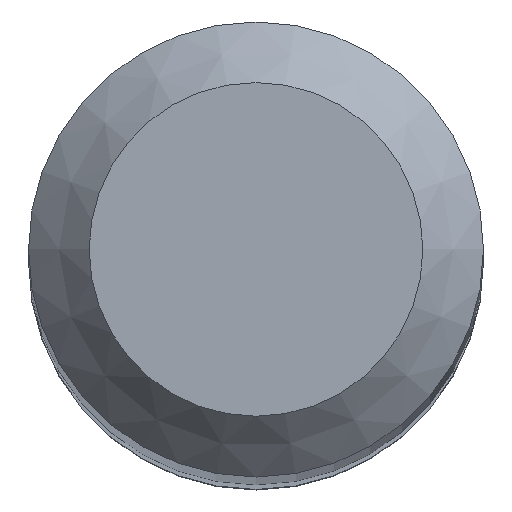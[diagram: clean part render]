
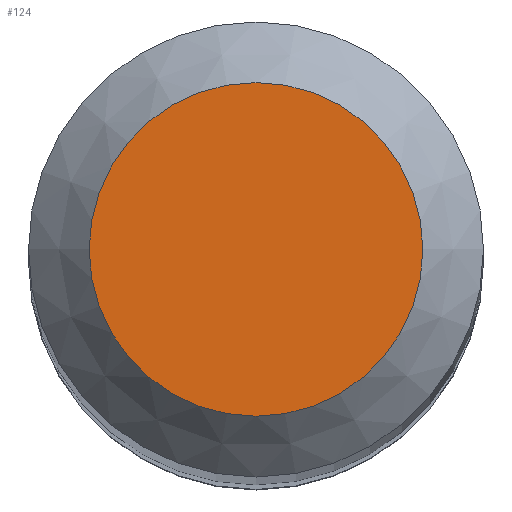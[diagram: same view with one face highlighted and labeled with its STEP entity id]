
A CAD part, top view. The second image highlights one B-rep face of the part: STEP entity #124.
In plain terms, the highlighted planar face has unit normal (0, 0, 1).
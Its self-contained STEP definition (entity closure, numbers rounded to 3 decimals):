
#108=CARTESIAN_POINT('',(2.2,0.0,100.0));
#109=DIRECTION('',(0.0,0.0,1.0));
#110=DIRECTION('',(1.0,0.0,0.0));
#111=AXIS2_PLACEMENT_3D('',#108,#109,#110);
#112=PLANE('',#111);
#113=CARTESIAN_POINT('',(-2.2,0.0,100.0));
#114=VERTEX_POINT('',#113);
#115=CARTESIAN_POINT('',(0.0,0.0,100.0));
#116=DIRECTION('',(0.0,0.0,-1.0));
#117=DIRECTION('',(-1.0,0.0,0.0));
#118=AXIS2_PLACEMENT_3D('',#115,#116,#117);
#119=CIRCLE('',#118,2.2);
#120=EDGE_CURVE('',#114,#114,#119,.T.);
#121=ORIENTED_EDGE('',*,*,#120,.F.);
#122=EDGE_LOOP('',(#121));
#123=FACE_OUTER_BOUND('',#122,.T.);
#124=ADVANCED_FACE('',(#123),#112,.T.);
